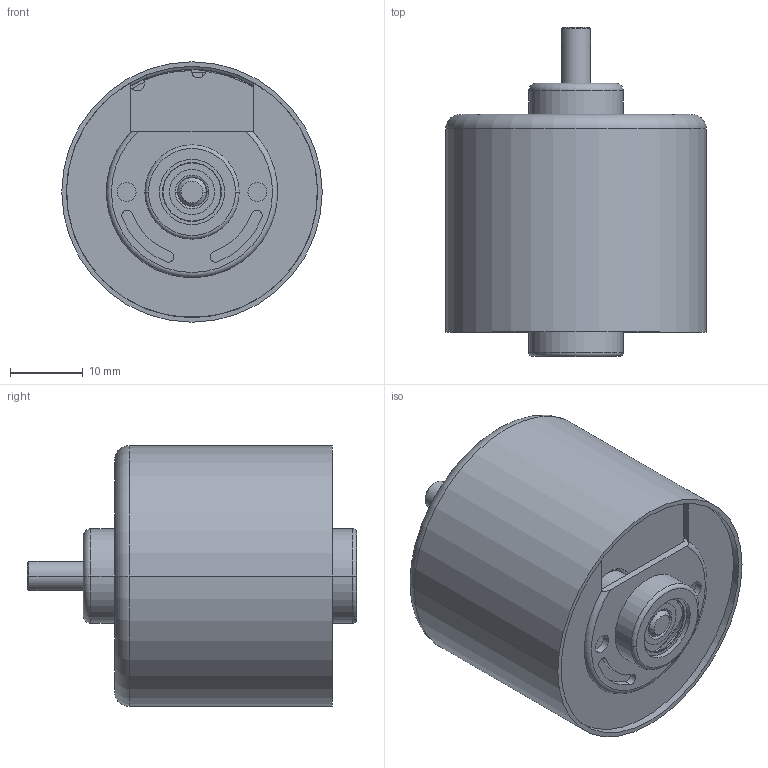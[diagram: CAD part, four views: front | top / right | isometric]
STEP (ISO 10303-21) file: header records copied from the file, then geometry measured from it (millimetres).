
FILE_DESCRIPTION((''),'2;1');
FILE_NAME('3_1_02_036_0236_SW0001','2024-12-12T10:15:38',('sunyp'),(''),'CREO PARAMETRIC BY PTC INC, 2017110','CREO PARAMETRIC BY PTC INC, 2017110','');
FILE_SCHEMA(('CONFIG_CONTROL_DESIGN'));
Length unit declared in the file: millimetre
Products named in the file (1): 3_1_02_036_0236_SW0001
Bounding box: 35.9 x 45.35 x 35.9 mm (x, y, z)
Volume: 13604 mm3; surface area: 19245.1 mm2
Topology: 1 solids, 5 shells, 898 faces, 2487 edges, 1596 vertices
Faces by surface type: plane 597, cylinder 220, torus 70, bspline 7, cone 4
Entity records: 29556 total; most frequent: CARTESIAN_POINT 5917, ORIENTED_EDGE 4974, DIRECTION 4968, EDGE_CURVE 2487, VECTOR 1694, LINE 1694, AXIS2_PLACEMENT_3D 1637, VERTEX_POINT 1596
